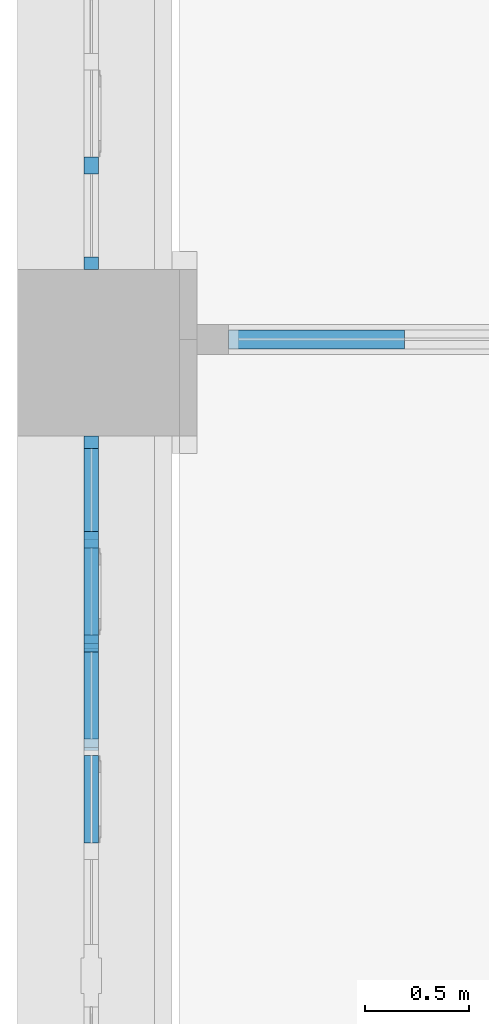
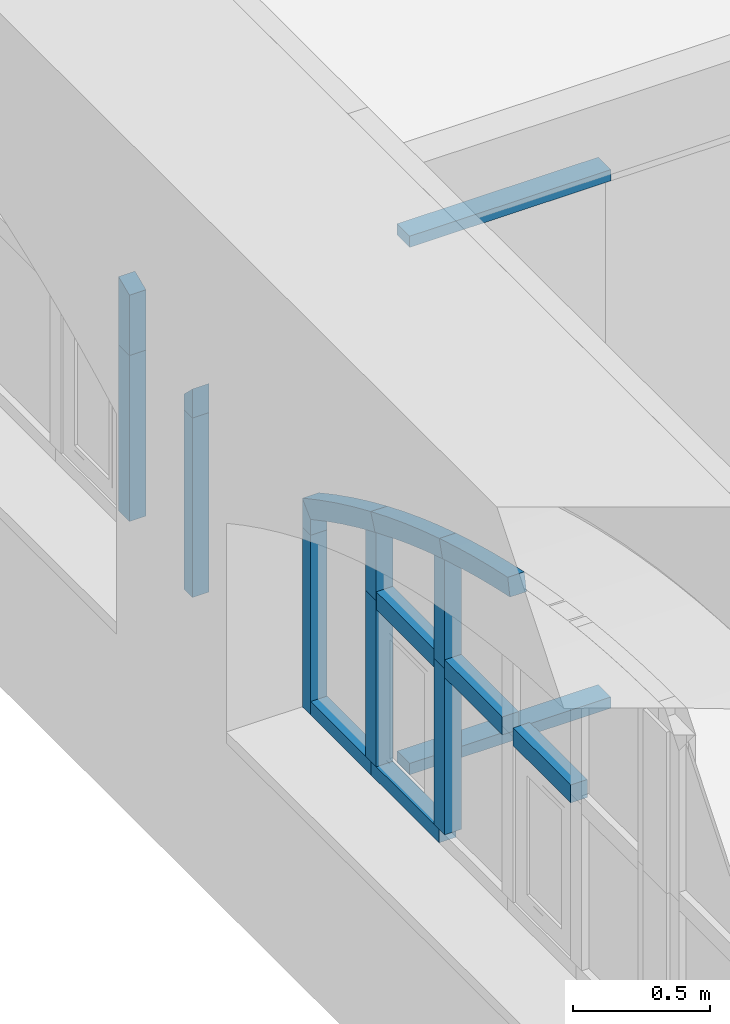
# One storey, part 14 of 32: 20 members, 3 elements without a shape of their own.
"""IFC2X3 building model written with IfcOpenShell, lengths in millimetres."""

from ifc_helpers import new_model, entity, si_unit, converted_unit, derived_unit, direction, frame, frame_2d, origin, place, context, subcontext, project, spatial, polyline, circle_curve, parameter, trimmed, segment, composite_curve, rectangle, outline, extrude, source, transform, mapped, material, type_object, type_shapes, element, aggregate, save


model = new_model("IFC2X3")

# Units and contexts
model_context = context("Model", 3, precision=0.01, world=origin(), true_north=direction((6.123031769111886e-17, 1.0)))
body_context = subcontext(model_context, "Body", "Model", "MODEL_VIEW")
ifc_project = project(units=[si_unit("LENGTHUNIT", "METRE", prefix="MILLI"), si_unit("AREAUNIT", "SQUARE_METRE"), si_unit("VOLUMEUNIT", "CUBIC_METRE"), converted_unit("PLANEANGLEUNIT", "DEGREE", entity("IfcPlaneAngleMeasure", 0.017453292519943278), si_unit("PLANEANGLEUNIT", "RADIAN"), dimensions=[0, 0, 0, 0, 0, 0, 0]), si_unit("MASSUNIT", "GRAM", prefix="KILO"), derived_unit("MASSDENSITYUNIT", [(si_unit("MASSUNIT", "GRAM", prefix="KILO"), 1), (si_unit("LENGTHUNIT", "METRE"), -3)]), derived_unit("IONCONCENTRATIONUNIT", [(si_unit("MASSUNIT", "GRAM", prefix="KILO"), 1), (si_unit("LENGTHUNIT", "METRE"), -3)]), derived_unit("MOMENTOFINERTIAUNIT", [(si_unit("LENGTHUNIT", "METRE"), 4)]), si_unit("TIMEUNIT", "SECOND"), si_unit("FREQUENCYUNIT", "HERTZ"), si_unit("THERMODYNAMICTEMPERATUREUNIT", "DEGREE_CELSIUS"), derived_unit("THERMALTRANSMITTANCEUNIT", [(si_unit("MASSUNIT", "GRAM", prefix="KILO"), 1), (si_unit("THERMODYNAMICTEMPERATUREUNIT", "KELVIN"), -1), (si_unit("TIMEUNIT", "SECOND"), -3)]), derived_unit("THERMALCONDUCTANCEUNIT", [(si_unit("MASSUNIT", "GRAM", prefix="KILO"), 1), (si_unit("THERMODYNAMICTEMPERATUREUNIT", "KELVIN"), -1), (si_unit("TIMEUNIT", "SECOND"), -3), (si_unit("LENGTHUNIT", "METRE"), 1)]), derived_unit("VOLUMETRICFLOWRATEUNIT", [(si_unit("LENGTHUNIT", "METRE", prefix="DECI"), 3), (si_unit("TIMEUNIT", "SECOND"), -1)]), derived_unit("MASSFLOWRATEUNIT", [(si_unit("MASSUNIT", "GRAM", prefix="KILO"), 1), (si_unit("TIMEUNIT", "SECOND"), -1)]), derived_unit("ROTATIONALFREQUENCYUNIT", [(si_unit("TIMEUNIT", "SECOND"), -1)]), si_unit("ELECTRICCURRENTUNIT", "AMPERE"), si_unit("ELECTRICVOLTAGEUNIT", "VOLT"), si_unit("POWERUNIT", "WATT"), si_unit("FORCEUNIT", "NEWTON", prefix="KILO"), si_unit("ILLUMINANCEUNIT", "LUX"), si_unit("LUMINOUSFLUXUNIT", "LUMEN"), si_unit("LUMINOUSINTENSITYUNIT", "CANDELA"), si_unit("ENERGYUNIT", "JOULE"), derived_unit("USERDEFINED", [(si_unit("MASSUNIT", "GRAM", prefix="KILO"), -1), (si_unit("LENGTHUNIT", "METRE"), -2), (si_unit("TIMEUNIT", "SECOND"), 3), (si_unit("LUMINOUSFLUXUNIT", "LUMEN"), 1)]), derived_unit("USERDEFINED", [(si_unit("MASSUNIT", "GRAM", prefix="KILO"), 1), (si_unit("TIMEUNIT", "SECOND"), -3), (si_unit("LENGTHUNIT", "METRE"), 3), (si_unit("ELECTRICCURRENTUNIT", "AMPERE"), -2)]), derived_unit("SOUNDPOWERUNIT", [(si_unit("MASSUNIT", "GRAM", prefix="KILO"), 1), (si_unit("TIMEUNIT", "SECOND"), -3), (si_unit("LENGTHUNIT", "METRE"), 2)]), derived_unit("SOUNDPRESSUREUNIT", [(si_unit("MASSUNIT", "GRAM", prefix="KILO"), 1), (si_unit("LENGTHUNIT", "METRE"), -1), (si_unit("TIMEUNIT", "SECOND"), -2)]), derived_unit("LINEARVELOCITYUNIT", [(si_unit("LENGTHUNIT", "METRE"), 1), (si_unit("TIMEUNIT", "SECOND"), -1)]), si_unit("PRESSUREUNIT", "PASCAL"), derived_unit("USERDEFINED", [(si_unit("MASSUNIT", "GRAM", prefix="KILO"), 1), (si_unit("LENGTHUNIT", "METRE"), -2), (si_unit("TIMEUNIT", "SECOND"), -2)]), derived_unit("LINEARFORCEUNIT", [(si_unit("MASSUNIT", "GRAM", prefix="KILO"), 1), (si_unit("TIMEUNIT", "SECOND"), -2)]), derived_unit("PLANARFORCEUNIT", [(si_unit("MASSUNIT", "GRAM", prefix="KILO"), 1), (si_unit("LENGTHUNIT", "METRE"), -1), (si_unit("TIMEUNIT", "SECOND"), -2)]), derived_unit("SPECIFICHEATCAPACITYUNIT", [(si_unit("THERMODYNAMICTEMPERATUREUNIT", "KELVIN"), -1), (si_unit("LENGTHUNIT", "METRE"), 2), (si_unit("TIMEUNIT", "SECOND"), -2)]), derived_unit("HEATFLUXDENSITYUNIT", [(si_unit("MASSUNIT", "GRAM", prefix="KILO"), 1), (si_unit("TIMEUNIT", "SECOND"), -3)]), derived_unit("HEATINGVALUEUNIT", [(si_unit("LENGTHUNIT", "METRE"), 2), (si_unit("TIMEUNIT", "SECOND"), -2)]), derived_unit("VAPORPERMEABILITYUNIT", [(si_unit("LENGTHUNIT", "METRE"), -1), (si_unit("TIMEUNIT", "SECOND"), 1)]), derived_unit("DYNAMICVISCOSITYUNIT", [(si_unit("MASSUNIT", "GRAM", prefix="KILO"), 1), (si_unit("TIMEUNIT", "SECOND"), -1), (si_unit("LENGTHUNIT", "METRE"), -1)]), derived_unit("THERMALEXPANSIONCOEFFICIENTUNIT", [(si_unit("THERMODYNAMICTEMPERATUREUNIT", "KELVIN"), -1)]), derived_unit("MODULUSOFELASTICITYUNIT", [(si_unit("MASSUNIT", "GRAM", prefix="KILO"), 1), (si_unit("LENGTHUNIT", "METRE"), -1), (si_unit("TIMEUNIT", "SECOND"), -2)]), derived_unit("ISOTHERMALMOISTURECAPACITYUNIT", [(si_unit("MASSUNIT", "GRAM", prefix="KILO"), -1), (si_unit("LENGTHUNIT", "METRE"), 3)]), derived_unit("MOISTUREDIFFUSIVITYUNIT", [(si_unit("TIMEUNIT", "SECOND"), -1), (si_unit("LENGTHUNIT", "METRE"), 2)]), derived_unit("MASSPERLENGTHUNIT", [(si_unit("MASSUNIT", "GRAM", prefix="KILO"), 1), (si_unit("LENGTHUNIT", "METRE"), -1)]), derived_unit("THERMALRESISTANCEUNIT", [(si_unit("MASSUNIT", "GRAM", prefix="KILO"), -1), (si_unit("TIMEUNIT", "SECOND"), 3), (si_unit("THERMODYNAMICTEMPERATUREUNIT", "KELVIN"), 1)]), derived_unit("ACCELERATIONUNIT", [(si_unit("LENGTHUNIT", "METRE"), 1), (si_unit("TIMEUNIT", "SECOND"), -2)]), derived_unit("ANGULARVELOCITYUNIT", [(si_unit("TIMEUNIT", "SECOND"), -1), (si_unit("PLANEANGLEUNIT", "RADIAN"), 1)]), derived_unit("LINEARSTIFFNESSUNIT", [(si_unit("MASSUNIT", "GRAM", prefix="KILO"), 1), (si_unit("TIMEUNIT", "SECOND"), -2)]), derived_unit("WARPINGCONSTANTUNIT", [(si_unit("LENGTHUNIT", "METRE"), 6)]), derived_unit("LINEARMOMENTUNIT", [(si_unit("MASSUNIT", "GRAM", prefix="KILO"), 1), (si_unit("LENGTHUNIT", "METRE"), 1), (si_unit("TIMEUNIT", "SECOND"), -2)]), derived_unit("TORQUEUNIT", [(si_unit("MASSUNIT", "GRAM", prefix="KILO"), 1), (si_unit("LENGTHUNIT", "METRE"), 2), (si_unit("TIMEUNIT", "SECOND"), -2)])], contexts=[model_context])

# Site, building, storey
site_placement = place(None, origin())
site = spatial("IfcSite", under=ifc_project, at=site_placement, Name="Default", CompositionType="ELEMENT")
building_placement = place(site_placement, origin())
building = spatial("IfcBuilding", under=site, at=building_placement, Name="Eesti Rahvusraamatukogu hoone renoveerimise projekteerimistööd", CompositionType="ELEMENT")
storey_placement = place(building_placement, frame((0.0, 0.0, 4950.000000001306)))
storey = spatial("IfcBuildingStorey", under=building, at=storey_placement, Name="2. korrus", CompositionType="ELEMENT", Elevation=4950.000000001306)

# Curtain wall, members
curtain_wall_type_1 = type_object("IfcCurtainWallType", Name="Curtain Wall:VLS Klaasvahesein profiilita 38db", PredefinedType="NOTDEFINED")
curtain_wall_1_placement = place(storey_placement, frame((0.0, 0.0, -4950.000000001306)))
curtain_wall_1 = element("IfcCurtainWall", 1, at=curtain_wall_1_placement, inside=storey, type_object=curtain_wall_type_1, Name="Curtain Wall:VLS Klaasvahesein profiilita 38db", ObjectType="Curtain Wall:VLS Klaasvahesein profiilita 38db")
ifc_material_1 = material(Name="Aluminum")
member_type_1 = type_object("IfcMemberType", Name="Rectangular Mullion:50mm x 92mm", PredefinedType="MULLION", material=ifc_material_1)
shared_shape_1 = source(origin(), body_context, "Body", "SweptSolid", [
    extrude(rectangle(XDim=50.0, YDim=92.0, at=frame_2d((0.0, 3.552713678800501e-15), x_axis=(1.0, 0.0))), frame((-25.0, 0.0, -847.4810135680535), z_axis=(0.0, 0.0, 1.0), x_axis=(-1.0, 0.0, 0.0)), (0.0, 0.0, 1.0), 847.4810135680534),
])
type_shapes(member_type_1, [shared_shape_1])
member_1_placement = place(curtain_wall_1_placement, frame((-34917.99999981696, 36420.0, 7350.0), z_axis=(1.0, 0.0, 0.0), x_axis=(0.0, 0.0, 1.0)))
member_1 = element("IfcMember", 2, at=member_1_placement, type_object=member_type_1, material=ifc_material_1, Name="Rectangular Mullion:50mm x 92mm", ObjectType="Rectangular Mullion:50mm x 92mm", context=body_context, shape_type="MappedRepresentation", body=[
    mapped(shared_shape_1, transform((0.0, 0.0, 0.0), scale=1.0)),
])
member_type_2 = type_object("IfcMemberType", Name="Rectangular Mullion:50mm x 92mm", PredefinedType="MULLION", material=ifc_material_1)
shared_shape_2 = source(origin(), body_context, "Body", "SweptSolid", [
    extrude(rectangle(XDim=50.0, YDim=92.0, at=frame_2d((0.0, 3.552713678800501e-15), x_axis=(1.0, 0.0))), frame((-25.0, 0.0, -847.4810135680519), z_axis=(0.0, 0.0, 1.0), x_axis=(-1.0, 0.0, 0.0)), (0.0, 0.0, 1.0), 847.4810135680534),
])
type_shapes(member_type_2, [shared_shape_2])
member_2_placement = place(curtain_wall_1_placement, frame((-35765.49999999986, 36420.0, 4950.0), z_axis=(-1.0, 0.0, 0.0), x_axis=(0.0, 0.0, -1.0)))
member_2 = element("IfcMember", 3, at=member_2_placement, type_object=member_type_2, material=ifc_material_1, Name="Rectangular Mullion:50mm x 92mm", ObjectType="Rectangular Mullion:50mm x 92mm", context=body_context, shape_type="MappedRepresentation", body=[
    mapped(shared_shape_2, transform((0.0, 0.0, 0.0), scale=1.0)),
])
aggregate(curtain_wall_1, [member_1, member_2])

curtain_wall_type_2 = type_object("IfcCurtainWallType", Name="Curtain Wall:Ak-04", PredefinedType="NOTDEFINED")
curtain_wall_2_placement = place(storey_placement, frame((0.0, 0.0, -4950.000000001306)))
curtain_wall_2 = element("IfcCurtainWall", 4, at=curtain_wall_2_placement, inside=storey, type_object=curtain_wall_type_2, Name="Curtain Wall:Ak-04", ObjectType="Curtain Wall:Ak-04")
ifc_material_2 = material(Name="LUMION_dark steel window frames")
member_type_3 = type_object("IfcMemberType", Name="Rectangular Mullion:NEW 80x70mm", PredefinedType="MULLION", material=ifc_material_2)
shared_shape_3 = source(origin(), body_context, "Body", "SweptSolid", [
    extrude(rectangle(XDim=80.0, YDim=70.0, at=frame_2d((0.0, -3.552713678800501e-15), x_axis=(1.0, 0.0))), frame((0.0, 0.0, -420.0), z_axis=(0.0, 0.0, 1.0), x_axis=(-1.0, 0.0, 0.0)), (0.0, 0.0, 1.0), 419.999999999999),
])
type_shapes(member_type_3, [shared_shape_3])
member_3_placement = place(curtain_wall_2_placement, frame((-36425.0, 33995.44029191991, 6550.000000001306), z_axis=(0.0, -1.0, 0.0), x_axis=(0.0, 0.0, 1.0)))
member_3 = element("IfcMember", 5, at=member_3_placement, type_object=member_type_3, material=ifc_material_2, Name="Rectangular Mullion:NEW 80x70mm", ObjectType="Rectangular Mullion:NEW 80x70mm", context=body_context, shape_type="MappedRepresentation", body=[
    mapped(shared_shape_3, transform((0.0, 0.0, 0.0), scale=1.0)),
])
member_4_placement = place(curtain_wall_2_placement, frame((-36425.0, 34495.440291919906, 6550.000000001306), z_axis=(0.0, -1.0, 0.0), x_axis=(0.0, 0.0, 1.0)))
member_4 = element("IfcMember", 6, at=member_4_placement, type_object=member_type_3, material=ifc_material_2, Name="Rectangular Mullion:NEW 80x70mm", ObjectType="Rectangular Mullion:NEW 80x70mm", context=body_context, shape_type="MappedRepresentation", body=[
    mapped(shared_shape_3, transform((0.0, 0.0, 0.0), scale=1.0)),
])
member_5_placement = place(curtain_wall_2_placement, frame((-36425.0, 34995.44029191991, 6550.000000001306), z_axis=(0.0, -1.0, 0.0), x_axis=(0.0, 0.0, 1.0)))
member_5 = element("IfcMember", 7, at=member_5_placement, type_object=member_type_3, material=ifc_material_2, Name="Rectangular Mullion:NEW 80x70mm", ObjectType="Rectangular Mullion:NEW 80x70mm", context=body_context, shape_type="MappedRepresentation", body=[
    mapped(shared_shape_3, transform((0.0, 0.0, 0.0), scale=1.0)),
])
member_type_4 = type_object("IfcMemberType", Name="Rectangular Mullion:NEW 60x70mm", PredefinedType="MULLION", material=ifc_material_2)
shared_shape_4 = source(origin(), body_context, "Body", "SweptSolid", [
    extrude(rectangle(XDim=60.0, YDim=70.0, at=frame_2d((0.0, 3.552713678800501e-15), x_axis=(1.0, 0.0))), frame((-30.0, 0.0, -500.0), z_axis=(0.0, 0.0, 1.0), x_axis=(-1.0, 0.0, 0.0)), (0.0, 0.0, 1.0), 499.999999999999),
])
type_shapes(member_type_4, [shared_shape_4])
member_6_placement = place(curtain_wall_2_placement, frame((-36425.0, 35455.440291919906, 5750.000000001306), z_axis=(0.0, 1.0, 0.0), x_axis=(0.0, 0.0, -1.0)))
member_6 = element("IfcMember", 8, at=member_6_placement, type_object=member_type_4, material=ifc_material_2, Name="Rectangular Mullion:NEW 60x70mm", ObjectType="Rectangular Mullion:NEW 60x70mm", context=body_context, shape_type="MappedRepresentation", body=[
    mapped(shared_shape_4, transform((0.0, 0.0, 0.0), scale=1.0)),
])
member_type_5 = type_object("IfcMemberType", Name="Rectangular Mullion:NEW 60x70mm", PredefinedType="MULLION", material=ifc_material_2)
shared_shape_5 = source(origin(), body_context, "Body", "SweptSolid", [
    extrude(rectangle(XDim=60.0, YDim=70.0, at=frame_2d((0.0, 3.552713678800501e-15), x_axis=(1.0, 0.0))), frame((-30.0, 0.0, -440.0), z_axis=(0.0, 0.0, 1.0), x_axis=(-1.0, 0.0, 0.0)), (0.0, 0.0, 1.0), 439.9999999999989),
])
type_shapes(member_type_5, [shared_shape_5])
member_7_placement = place(curtain_wall_2_placement, frame((-36425.0, 35895.440291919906, 5750.000000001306), z_axis=(0.0, 1.0, 0.0), x_axis=(0.0, 0.0, -1.0)))
member_7 = element("IfcMember", 9, at=member_7_placement, type_object=member_type_5, material=ifc_material_2, Name="Rectangular Mullion:NEW 60x70mm", ObjectType="Rectangular Mullion:NEW 60x70mm", context=body_context, shape_type="MappedRepresentation", body=[
    mapped(shared_shape_5, transform((0.0, 0.0, 0.0), scale=1.0)),
])

curtain_wall_3_placement = place(storey_placement, frame((0.0, 0.0, -4950.000000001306)))
curtain_wall_3 = element("IfcCurtainWall", 10, at=curtain_wall_3_placement, inside=storey, type_object=curtain_wall_type_2, Name="Curtain Wall:Ak-04", ObjectType="Curtain Wall:Ak-04")
member_type_6 = type_object("IfcMemberType", Name="Rectangular Mullion:NEW 80x70mm", PredefinedType="MULLION", material=ifc_material_2)
shared_shape_6 = source(origin(), body_context, "Body", "SweptSolid", [
    extrude(outline(composite_curve([segment(polyline([(-174.30772999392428, -46.24561306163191), (94.42385048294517, -46.24561306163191)]), True, "CONTINUOUS"), segment(trimmed(circle_curve(frame_2d((-4754.083849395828, 2093.7543869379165), x_axis=(0.8754595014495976, -0.48329148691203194)), 5299.776119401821), [parameter(5.085231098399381)], [parameter(5.924265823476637)], True, "PARAMETER"), True, "CONTINUOUS"), segment(trimmed(circle_curve(frame_2d((-4754.0838493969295, 2093.7543869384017), x_axis=(0.9206661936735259, -0.3903508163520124)), 5299.776119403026), [parameter(0.0)], [parameter(0.10296582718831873)], True, "PARAMETER"), True, "CONTINUOUS"), segment(polyline([(128.9507517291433, 33.75438693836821), (-174.30772999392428, 33.75438693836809)]), True, "CONTINUOUS"), segment(polyline([(-174.30772999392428, 33.75438693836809), (-174.30772999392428, -46.24561306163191)]), True, "CONTINUOUS")], self_intersect=False)), frame((-6.245613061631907, -35.0, -174.30772999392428), z_axis=(0.0, 1.0, 0.0), x_axis=(0.0, 0.0, -1.0)), (0.0, 0.0, 1.0), 70.00000000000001),
])
type_shapes(member_type_6, [shared_shape_6])
member_8_placement = place(curtain_wall_3_placement, frame((-36425.0, 37257.50000000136, 6550.000000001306), z_axis=(0.0, 0.0, -1.0), x_axis=(0.0, -1.0, 0.0)))
member_8 = element("IfcMember", 11, at=member_8_placement, type_object=member_type_6, material=ifc_material_2, Name="Rectangular Mullion:NEW 80x70mm", ObjectType="Rectangular Mullion:NEW 80x70mm", context=body_context, shape_type="MappedRepresentation", body=[
    mapped(shared_shape_6, transform((0.0, 0.0, 0.0), scale=1.0)),
])
member_type_7 = type_object("IfcMemberType", Name="Rectangular Mullion:NEW 80x70mm", PredefinedType="MULLION", material=ifc_material_2)
shared_shape_7 = source(origin(), body_context, "Body", "SweptSolid", [
    extrude(rectangle(XDim=80.0, YDim=70.0, at=frame_2d((0.0, -3.552713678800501e-15), x_axis=(1.0, 0.0))), frame((0.0, 0.0, -740.0), z_axis=(0.0, 0.0, 1.0), x_axis=(-1.0, 0.0, 0.0)), (0.0, 0.0, 1.0), 740.0),
])
type_shapes(member_type_7, [shared_shape_7])
member_9_placement = place(curtain_wall_3_placement, frame((-36425.0, 37257.50000000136, 5810.000000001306), z_axis=(0.0, 0.0, -1.0), x_axis=(0.0, -1.0, 0.0)))
member_9 = element("IfcMember", 12, at=member_9_placement, type_object=member_type_7, material=ifc_material_2, Name="Rectangular Mullion:NEW 80x70mm", ObjectType="Rectangular Mullion:NEW 80x70mm", context=body_context, shape_type="MappedRepresentation", body=[
    mapped(shared_shape_7, transform((0.0, 0.0, 0.0), scale=1.0)),
])

# Member
member_10_placement = place(curtain_wall_2_placement, frame((-36425.0, 34955.44029191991, 5810.000000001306), z_axis=(0.0, 0.0, -1.0), x_axis=(0.0, -1.0, 0.0)))
member_10 = element("IfcMember", 13, at=member_10_placement, type_object=member_type_7, material=ifc_material_2, Name="Rectangular Mullion:NEW 80x70mm", ObjectType="Rectangular Mullion:NEW 80x70mm", context=body_context, shape_type="MappedRepresentation", body=[
    mapped(shared_shape_7, transform((0.0, 0.0, 0.0), scale=1.0)),
])

member_11_placement = place(curtain_wall_2_placement, frame((-36425.0, 35455.440291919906, 5810.000000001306), z_axis=(0.0, 0.0, -1.0), x_axis=(0.0, -1.0, 0.0)))
member_11 = element("IfcMember", 14, at=member_11_placement, type_object=member_type_7, material=ifc_material_2, Name="Rectangular Mullion:NEW 80x70mm", ObjectType="Rectangular Mullion:NEW 80x70mm", context=body_context, shape_type="MappedRepresentation", body=[
    mapped(shared_shape_7, transform((0.0, 0.0, 0.0), scale=1.0)),
])

member_type_8 = type_object("IfcMemberType", Name="Rectangular Mullion:NEW 80x70mm", PredefinedType="MULLION", material=ifc_material_2)
shared_shape_8 = source(origin(), body_context, "Body", "SweptSolid", [
    extrude(outline(composite_curve([segment(polyline([(-285.0515721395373, -35.24143766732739), (200.1527542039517, -35.24143766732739)]), True, "CONTINUOUS"), segment(trimmed(circle_curve(frame_2d((-4864.827691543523, -1595.241437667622), x_axis=(0.9788729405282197, 0.20446947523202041)), 5299.776119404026), [parameter(5.320243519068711)], [parameter(5.503672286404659)], True, "PARAMETER"), True, "CONTINUOUS"), segment(trimmed(circle_curve(frame_2d((-4864.827691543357, -1595.2414376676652), x_axis=(0.9547498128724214, 0.2974101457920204)), 5299.776119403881), [parameter(0.0)], [parameter(0.7237926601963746)], True, "PARAMETER"), True, "CONTINUOUS"), segment(polyline([(174.8178233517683, 44.758562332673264), (-285.0515721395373, 44.75856233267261)]), True, "CONTINUOUS"), segment(polyline([(-285.0515721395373, 44.75856233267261), (-285.0515721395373, -35.24143766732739)]), True, "CONTINUOUS")], self_intersect=False)), frame((4.758562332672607, -35.0, -285.0515721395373), z_axis=(0.0, 1.0, 0.0), x_axis=(0.0, 0.0, -1.0)), (0.0, 0.0, 1.0), 70.00000000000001),
])
type_shapes(member_type_8, [shared_shape_8])
member_12_placement = place(curtain_wall_2_placement, frame((-36425.0, 34955.44029191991, 6550.000000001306), z_axis=(0.0, 0.0, -1.0), x_axis=(0.0, -1.0, 0.0)))
member_12 = element("IfcMember", 15, at=member_12_placement, type_object=member_type_8, material=ifc_material_2, Name="Rectangular Mullion:NEW 80x70mm", ObjectType="Rectangular Mullion:NEW 80x70mm", context=body_context, shape_type="MappedRepresentation", body=[
    mapped(shared_shape_8, transform((0.0, 0.0, 0.0), scale=1.0)),
])

member_type_9 = type_object("IfcMemberType", Name="Rectangular Mullion:NEW 80x70mm", PredefinedType="MULLION", material=ifc_material_2)
shared_shape_9 = source(origin(), body_context, "Body", "SweptSolid", [
    extrude(outline(composite_curve([segment(polyline([(-174.3077299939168, -33.75438693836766), (128.95075172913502, -33.75438693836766)]), True, "CONTINUOUS"), segment(trimmed(circle_curve(frame_2d((-4754.083849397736, -2093.7543869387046), x_axis=(0.9547498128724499, 0.2974101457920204)), 5299.776119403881), [parameter(5.5712474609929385)], [parameter(5.674213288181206)], True, "PARAMETER"), True, "CONTINUOUS"), segment(trimmed(circle_curve(frame_2d((-4754.083849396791, -2093.7543869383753), x_axis=(0.9206661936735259, 0.39035081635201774)), 5299.7761194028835), [parameter(0.0)], [parameter(0.8390347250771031)], True, "PARAMETER"), True, "CONTINUOUS"), segment(polyline([(94.42385048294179, 46.245613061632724), (-174.3077299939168, 46.24561306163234)]), True, "CONTINUOUS"), segment(polyline([(-174.3077299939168, 46.24561306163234), (-174.3077299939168, -33.75438693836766)]), True, "CONTINUOUS")], self_intersect=False)), frame((6.245613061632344, -35.0, -174.3077299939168), z_axis=(0.0, 1.0, 0.0), x_axis=(0.0, 0.0, -1.0)), (0.0, 0.0, 1.0), 70.00000000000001),
])
type_shapes(member_type_9, [shared_shape_9])
member_13_placement = place(curtain_wall_2_placement, frame((-36425.0, 35455.440291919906, 6550.000000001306), z_axis=(0.0, 0.0, -1.0), x_axis=(0.0, -1.0, 0.0)))
member_13 = element("IfcMember", 16, at=member_13_placement, type_object=member_type_9, material=ifc_material_2, Name="Rectangular Mullion:NEW 80x70mm", ObjectType="Rectangular Mullion:NEW 80x70mm", context=body_context, shape_type="MappedRepresentation", body=[
    mapped(shared_shape_9, transform((0.0, 0.0, 0.0), scale=1.0)),
])

member_type_10 = type_object("IfcMemberType", Name="Rectangular Mullion:NEW 60x70mm", PredefinedType="MULLION", material=ifc_material_2)
shared_shape_10 = source(origin(), body_context, "Body", "SweptSolid", [
    extrude(outline(polyline([(-50.43550252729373, -30.0), (79.56449747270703, -30.0), (21.306507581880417, 30.0), (-50.43550252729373, 30.0), (-50.43550252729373, -30.0)])), frame((-30.0, -35.0, -50.43550252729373), z_axis=(0.0, 1.0, 0.0), x_axis=(0.0, 0.0, -1.0)), (0.0, 0.0, 1.0), 70.00000000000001),
])
type_shapes(member_type_10, [shared_shape_10])
member_14_placement = place(curtain_wall_3_placement, frame((-36425.0, 36757.50000000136, 6550.000000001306), z_axis=(0.0, 0.0, -1.0), x_axis=(0.0, -1.0, 0.0)))
member_14 = element("IfcMember", 17, at=member_14_placement, type_object=member_type_10, material=ifc_material_2, Name="Rectangular Mullion:NEW 60x70mm", ObjectType="Rectangular Mullion:NEW 60x70mm", context=body_context, shape_type="MappedRepresentation", body=[
    mapped(shared_shape_10, transform((0.0, 0.0, 0.0), scale=1.0)),
])

member_type_11 = type_object("IfcMemberType", Name="Rectangular Mullion:NEW 60x70mm", PredefinedType="MULLION", material=ifc_material_2)
shared_shape_11 = source(origin(), body_context, "Body", "SweptSolid", [
    extrude(rectangle(XDim=60.0, YDim=70.0, at=frame_2d((0.0, -3.552713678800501e-15), x_axis=(1.0, 0.0))), frame((-30.0, 0.0, -800.0), z_axis=(0.0, 0.0, 1.0), x_axis=(-1.0, 0.0, 0.0)), (0.0, 0.0, 1.0), 800.0),
])
type_shapes(member_type_11, [shared_shape_11])
member_15_placement = place(curtain_wall_3_placement, frame((-36425.0, 36757.50000000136, 5750.000000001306), z_axis=(0.0, 0.0, -1.0), x_axis=(0.0, -1.0, 0.0)))
member_15 = element("IfcMember", 18, at=member_15_placement, type_object=member_type_11, material=ifc_material_2, Name="Rectangular Mullion:NEW 60x70mm", ObjectType="Rectangular Mullion:NEW 60x70mm", context=body_context, shape_type="MappedRepresentation", body=[
    mapped(shared_shape_11, transform((0.0, 0.0, 0.0), scale=1.0)),
])

aggregate(curtain_wall_3, [member_8, member_9, member_14, member_15])

member_type_12 = type_object("IfcMemberType", Name="Rectangular Mullion:NEW 60x70mm", PredefinedType="MULLION", material=ifc_material_2)
shared_shape_12 = source(origin(), body_context, "Body", "SweptSolid", [
    extrude(rectangle(XDim=60.0, YDim=70.0, at=frame_2d((0.0, -3.552713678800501e-15), x_axis=(1.0, 0.0))), frame((-30.0, 0.0, -800.0), z_axis=(0.0, 0.0, 1.0), x_axis=(-1.0, 0.0, 0.0)), (0.0, 0.0, 1.0), 800.0),
])
type_shapes(member_type_12, [shared_shape_12])
member_16_placement = place(curtain_wall_2_placement, frame((-36425.0, 35955.440291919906, 6550.000000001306), z_axis=(0.0, 0.0, 1.0), x_axis=(0.0, 1.0, 0.0)))
member_16 = element("IfcMember", 19, at=member_16_placement, type_object=member_type_12, material=ifc_material_2, Name="Rectangular Mullion:NEW 60x70mm", ObjectType="Rectangular Mullion:NEW 60x70mm", context=body_context, shape_type="MappedRepresentation", body=[
    mapped(shared_shape_12, transform((0.0, 0.0, 0.0), scale=1.0)),
])

member_type_13 = type_object("IfcMemberType", Name="Rectangular Mullion:NEW 60x70mm", PredefinedType="MULLION", material=ifc_material_2)
shared_shape_13 = source(origin(), body_context, "Body", "SweptSolid", [
    extrude(outline(polyline([(-79.56449747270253, -30.0), (50.43550252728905, -30.0), (50.43550252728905, 30.0), (-21.306507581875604, 30.0), (-79.56449747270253, -30.0)])), frame((-30.0, -35.0, -79.56449747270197), z_axis=(0.0, 1.0, 0.0), x_axis=(0.0, 0.0, -1.0)), (0.0, 0.0, 1.0), 70.00000000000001),
])
type_shapes(member_type_13, [shared_shape_13])
member_17_placement = place(curtain_wall_2_placement, frame((-36425.0, 35955.440291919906, 6680.000000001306), z_axis=(0.0, 0.0, 1.0), x_axis=(0.0, 1.0, 0.0)))
member_17 = element("IfcMember", 20, at=member_17_placement, type_object=member_type_13, material=ifc_material_2, Name="Rectangular Mullion:NEW 60x70mm", ObjectType="Rectangular Mullion:NEW 60x70mm", context=body_context, shape_type="MappedRepresentation", body=[
    mapped(shared_shape_13, transform((0.0, 0.0, 0.0), scale=1.0)),
])

member_type_14 = type_object("IfcMemberType", Name="Rectangular Mullion:NEW 80x70mm", PredefinedType="MULLION", material=ifc_material_2)
shared_shape_14 = source(origin(), body_context, "Body", "SweptSolid", [
    extrude(outline(composite_curve([segment(polyline([(-52.308041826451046, -256.0677643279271), (27.6919581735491, -256.0677643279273)]), True, "CONTINUOUS"), segment(trimmed(circle_curve(frame_2d((5327.468077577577, -256.0677643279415), x_axis=(-0.995390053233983, 0.09590955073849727)), 5299.776119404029), [parameter(3.5622212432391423e-13)], [parameter(5.503672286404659)], True, "PARAMETER"), False, "CONTINUOUS"), segment(polyline([(52.12364395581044, 252.23138229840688), (-27.50756030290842, 259.90414635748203)]), True, "CONTINUOUS"), segment(trimmed(circle_curve(frame_2d((5327.468077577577, -256.0677643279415), x_axis=(-0.995390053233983, 0.09590955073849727)), 5379.776119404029), [parameter(3.5622212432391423e-13)], [parameter(5.503672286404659)], True, "PARAMETER"), True, "CONTINUOUS")], self_intersect=False)), frame((-52.30804182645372, -35.0, -256.0677643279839), z_axis=(0.0, 1.0, 0.0), x_axis=(-0.9953900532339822, 0.0, 0.09590955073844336)), (0.0, 0.0, 1.0), 69.99999999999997),
])
type_shapes(member_type_14, [shared_shape_14])
member_18_placement = place(curtain_wall_2_placement, frame((-36425.0, 34455.4402919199, 7236.341149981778), z_axis=(0.0, -0.9788729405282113, 0.20446947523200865), x_axis=(0.0, 0.20446947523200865, 0.9788729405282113)))
member_18 = element("IfcMember", 21, at=member_18_placement, type_object=member_type_14, material=ifc_material_2, Name="Rectangular Mullion:NEW 80x70mm", ObjectType="Rectangular Mullion:NEW 80x70mm", context=body_context, shape_type="MappedRepresentation", body=[
    mapped(shared_shape_14, transform((0.0, 0.0, 0.0), scale=1.0)),
])

member_type_15 = type_object("IfcMemberType", Name="Rectangular Mullion:NEW 80x70mm", PredefinedType="MULLION", material=ifc_material_2)
shared_shape_15 = source(origin(), body_context, "Body", "SweptSolid", [
    extrude(outline(composite_curve([segment(polyline([(-53.08199940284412, -263.97691053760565), (26.91800059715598, -263.97691053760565)]), True, "CONTINUOUS"), segment(trimmed(circle_curve(frame_2d((5326.694120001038, -263.97691053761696), x_axis=(-0.9951001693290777, 0.09887190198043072)), 5299.776119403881), [parameter(3.5622212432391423e-13)], [parameter(5.674213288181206)], True, "PARAMETER"), False, "CONTINUOUS"), segment(polyline([(52.886006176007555, 260.02203445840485), (-26.722007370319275, 267.9317866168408)]), True, "CONTINUOUS"), segment(trimmed(circle_curve(frame_2d((5326.694120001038, -263.97691053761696), x_axis=(-0.9951001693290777, 0.09887190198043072)), 5379.776119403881), [parameter(3.5622212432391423e-13)], [parameter(5.674213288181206)], True, "PARAMETER"), True, "CONTINUOUS")], self_intersect=False)), frame((-53.081999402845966, -35.0, -263.9769105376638), z_axis=(0.0, 1.0, 0.0), x_axis=(-0.9951001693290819, 0.0, 0.09887190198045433)), (0.0, 0.0, 1.0), 70.00000000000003),
])
type_shapes(member_type_15, [shared_shape_15])
member_19_placement = place(curtain_wall_2_placement, frame((-36425.0, 34955.44029191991, 7106.56412389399), z_axis=(0.0, -0.9547498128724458, 0.2974101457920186), x_axis=(0.0, 0.2974101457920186, 0.9547498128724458)))
member_19 = element("IfcMember", 22, at=member_19_placement, type_object=member_type_15, material=ifc_material_2, Name="Rectangular Mullion:NEW 80x70mm", ObjectType="Rectangular Mullion:NEW 80x70mm", context=body_context, shape_type="MappedRepresentation", body=[
    mapped(shared_shape_15, transform((0.0, 0.0, 0.0), scale=1.0)),
])

member_type_16 = type_object("IfcMemberType", Name="Rectangular Mullion:NEW 80x70mm", PredefinedType="MULLION", material=ifc_material_2)
shared_shape_16 = source(origin(), body_context, "Body", "SweptSolid", [
    extrude(outline(composite_curve([segment(trimmed(circle_curve(frame_2d((5012.255803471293, 1821.4299836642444), x_axis=(-0.9214052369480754, -0.3886031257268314)), 5379.776119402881), [parameter(354.0757341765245)], [parameter(359.99999999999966)], True, "PARAMETER"), True, "CONTINUOUS"), segment(polyline([(55.30191344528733, -269.16783204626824), (129.01433240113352, -238.07958198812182)]), True, "CONTINUOUS"), segment(trimmed(circle_curve(frame_2d((5012.255803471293, 1821.4299836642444), x_axis=(-0.9214052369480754, -0.3886031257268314)), 5299.776119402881), [parameter(354.33940494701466)], [parameter(359.99999999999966)], True, "PARAMETER"), False, "CONTINUOUS"), segment(polyline([(-50.313741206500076, 253.62370701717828), (-134.0025046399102, 253.62370701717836)]), True, "CONTINUOUS")], self_intersect=False)), frame((-53.64398821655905, -35.0, -269.50314648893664), z_axis=(0.0, -1.0, 0.0), x_axis=(-0.9214052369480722, 0.0, 0.3886031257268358)), (0.0, 0.0, -1.0), 70.00000000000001),
])
type_shapes(member_type_16, [shared_shape_16])
member_20_placement = place(curtain_wall_2_placement, frame((-36425.0, 35455.440291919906, 6923.201883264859), z_axis=(0.0, -0.9206661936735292, 0.3903508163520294), x_axis=(0.0, 0.3903508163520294, 0.9206661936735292)))
member_20 = element("IfcMember", 23, at=member_20_placement, type_object=member_type_16, material=ifc_material_2, Name="Rectangular Mullion:NEW 80x70mm", ObjectType="Rectangular Mullion:NEW 80x70mm", context=body_context, shape_type="MappedRepresentation", body=[
    mapped(shared_shape_16, transform((0.0, 0.0, 0.0), scale=1.0)),
])

aggregate(curtain_wall_2, [member_12, member_10, member_13, member_11, member_6, member_7, member_16, member_17, member_18, member_19, member_20, member_3, member_4, member_5])

save(model, "model.ifc")
